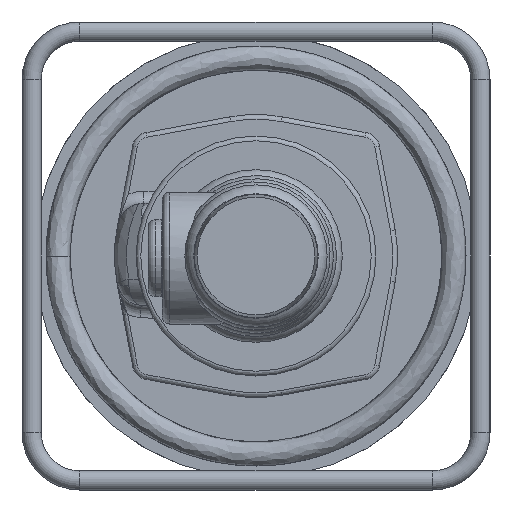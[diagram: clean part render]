
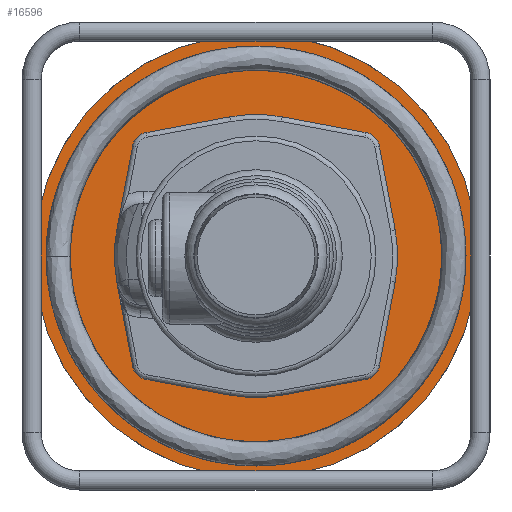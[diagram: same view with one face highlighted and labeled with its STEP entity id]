
A CAD part, left-side view. The second image highlights one B-rep face of the part: STEP entity #16596.
In plain terms, the highlighted planar face has unit normal (-1, 0, 0).
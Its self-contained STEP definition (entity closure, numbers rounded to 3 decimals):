
#117=FACE_BOUND('',#5367,.T.);
#1531=PLANE('',#17544);
#2523=LINE('',#37416,#3498);
#2524=LINE('',#37420,#3499);
#2525=LINE('',#37424,#3500);
#2526=LINE('',#37428,#3501);
#2527=LINE('',#37432,#3502);
#2528=LINE('',#37436,#3503);
#2529=LINE('',#37440,#3504);
#2530=LINE('',#37444,#3505);
#3498=VECTOR('',#20340,10.);
#3499=VECTOR('',#20343,10.);
#3500=VECTOR('',#20346,10.);
#3501=VECTOR('',#20349,10.);
#3502=VECTOR('',#20352,10.);
#3503=VECTOR('',#20355,10.);
#3504=VECTOR('',#20358,10.);
#3505=VECTOR('',#20361,10.);
#4392=FACE_OUTER_BOUND('',#5366,.T.);
#5366=EDGE_LOOP('',(#13907));
#5367=EDGE_LOOP('',(#13908,#13909,#13910,#13911,#13912,#13913,#13914,#13915,
#13916,#13917,#13918,#13919,#13920,#13921,#13922,#13923));
#5856=CIRCLE('',#17522,92.5);
#5858=CIRCLE('',#17545,7.);
#5859=CIRCLE('',#17546,59.);
#5860=CIRCLE('',#17547,7.);
#5861=CIRCLE('',#17548,59.);
#5862=CIRCLE('',#17549,7.);
#5863=CIRCLE('',#17550,59.);
#5864=CIRCLE('',#17551,7.);
#5865=CIRCLE('',#17552,59.);
#7430=VERTEX_POINT('',#37389);
#7431=VERTEX_POINT('',#37414);
#7432=VERTEX_POINT('',#37415);
#7433=VERTEX_POINT('',#37417);
#7434=VERTEX_POINT('',#37419);
#7435=VERTEX_POINT('',#37421);
#7436=VERTEX_POINT('',#37423);
#7437=VERTEX_POINT('',#37425);
#7438=VERTEX_POINT('',#37427);
#7439=VERTEX_POINT('',#37429);
#7440=VERTEX_POINT('',#37431);
#7441=VERTEX_POINT('',#37433);
#7442=VERTEX_POINT('',#37435);
#7443=VERTEX_POINT('',#37437);
#7444=VERTEX_POINT('',#37439);
#7445=VERTEX_POINT('',#37441);
#7446=VERTEX_POINT('',#37443);
#9617=EDGE_CURVE('',#7430,#7430,#5856,.T.);
#9619=EDGE_CURVE('',#7431,#7432,#2523,.T.);
#9620=EDGE_CURVE('',#7431,#7433,#5858,.T.);
#9621=EDGE_CURVE('',#7433,#7434,#2524,.T.);
#9622=EDGE_CURVE('',#7434,#7435,#5859,.T.);
#9623=EDGE_CURVE('',#7436,#7435,#2525,.T.);
#9624=EDGE_CURVE('',#7436,#7437,#5860,.T.);
#9625=EDGE_CURVE('',#7437,#7438,#2526,.T.);
#9626=EDGE_CURVE('',#7438,#7439,#5861,.T.);
#9627=EDGE_CURVE('',#7440,#7439,#2527,.T.);
#9628=EDGE_CURVE('',#7440,#7441,#5862,.T.);
#9629=EDGE_CURVE('',#7441,#7442,#2528,.T.);
#9630=EDGE_CURVE('',#7442,#7443,#5863,.T.);
#9631=EDGE_CURVE('',#7444,#7443,#2529,.T.);
#9632=EDGE_CURVE('',#7444,#7445,#5864,.T.);
#9633=EDGE_CURVE('',#7445,#7446,#2530,.T.);
#9634=EDGE_CURVE('',#7446,#7432,#5865,.T.);
#13907=ORIENTED_EDGE('',*,*,#9617,.F.);
#13908=ORIENTED_EDGE('',*,*,#9619,.F.);
#13909=ORIENTED_EDGE('',*,*,#9620,.T.);
#13910=ORIENTED_EDGE('',*,*,#9621,.T.);
#13911=ORIENTED_EDGE('',*,*,#9622,.T.);
#13912=ORIENTED_EDGE('',*,*,#9623,.F.);
#13913=ORIENTED_EDGE('',*,*,#9624,.T.);
#13914=ORIENTED_EDGE('',*,*,#9625,.T.);
#13915=ORIENTED_EDGE('',*,*,#9626,.T.);
#13916=ORIENTED_EDGE('',*,*,#9627,.F.);
#13917=ORIENTED_EDGE('',*,*,#9628,.T.);
#13918=ORIENTED_EDGE('',*,*,#9629,.T.);
#13919=ORIENTED_EDGE('',*,*,#9630,.T.);
#13920=ORIENTED_EDGE('',*,*,#9631,.F.);
#13921=ORIENTED_EDGE('',*,*,#9632,.T.);
#13922=ORIENTED_EDGE('',*,*,#9633,.T.);
#13923=ORIENTED_EDGE('',*,*,#9634,.T.);
#16596=ADVANCED_FACE('',(#4392,#117),#1531,.T.);
#17522=AXIS2_PLACEMENT_3D('',#37391,#20294,#20295);
#17544=AXIS2_PLACEMENT_3D('',#37413,#20338,#20339);
#17545=AXIS2_PLACEMENT_3D('',#37418,#20341,#20342);
#17546=AXIS2_PLACEMENT_3D('',#37422,#20344,#20345);
#17547=AXIS2_PLACEMENT_3D('',#37426,#20347,#20348);
#17548=AXIS2_PLACEMENT_3D('',#37430,#20350,#20351);
#17549=AXIS2_PLACEMENT_3D('',#37434,#20353,#20354);
#17550=AXIS2_PLACEMENT_3D('',#37438,#20356,#20357);
#17551=AXIS2_PLACEMENT_3D('',#37442,#20359,#20360);
#17552=AXIS2_PLACEMENT_3D('',#37445,#20362,#20363);
#20294=DIRECTION('center_axis',(1.,0.,0.));
#20295=DIRECTION('ref_axis',(0.,0.644,0.765));
#20338=DIRECTION('center_axis',(-1.,0.,0.));
#20339=DIRECTION('ref_axis',(0.,0.644,0.765));
#20340=DIRECTION('',(0.,0.184,-0.983));
#20341=DIRECTION('center_axis',(1.,0.,0.));
#20342=DIRECTION('ref_axis',(0.,0.809,-0.588));
#20343=DIRECTION('',(0.,-0.983,0.184));
#20344=DIRECTION('center_axis',(1.,0.,0.));
#20345=DIRECTION('ref_axis',(0.,0.,
1.));
#20346=DIRECTION('',(0.,0.983,0.184));
#20347=DIRECTION('center_axis',(1.,0.,0.));
#20348=DIRECTION('ref_axis',(0.,0.588,0.809));
#20349=DIRECTION('',(0.,-0.184,-0.983));
#20350=DIRECTION('center_axis',(1.,0.,0.));
#20351=DIRECTION('ref_axis',(0.,0.,
1.));
#20352=DIRECTION('',(0.,-0.184,0.983));
#20353=DIRECTION('center_axis',(1.,0.,0.));
#20354=DIRECTION('ref_axis',(0.,-0.809,0.588));
#20355=DIRECTION('',(0.,0.983,-0.184));
#20356=DIRECTION('center_axis',(1.,0.,0.));
#20357=DIRECTION('ref_axis',(0.,0.,
1.));
#20358=DIRECTION('',(0.,-0.983,-0.184));
#20359=DIRECTION('center_axis',(1.,0.,0.));
#20360=DIRECTION('ref_axis',(0.,-0.588,-0.809));
#20361=DIRECTION('',(0.,0.184,0.983));
#20362=DIRECTION('center_axis',(1.,0.,0.));
#20363=DIRECTION('ref_axis',(0.,0.,
1.));
#37389=CARTESIAN_POINT('',(0.,-70.782,59.55));
#37391=CARTESIAN_POINT('Origin',(0.,0.,0.));
#37413=CARTESIAN_POINT('Origin',(0.,70.782,
-59.55));
#37414=CARTESIAN_POINT('',(0.,51.428,45.839));
#37415=CARTESIAN_POINT('',(0.,57.988,10.882));
#37416=CARTESIAN_POINT('',(0.,51.428,45.839));
#37417=CARTESIAN_POINT('',(0.,45.839,51.428));
#37418=CARTESIAN_POINT('Origin',(0.,44.548,
44.548));
#37419=CARTESIAN_POINT('',(0.,10.882,57.988));
#37420=CARTESIAN_POINT('',(0.,45.839,51.428));
#37421=CARTESIAN_POINT('',(0.,-10.882,57.988));
#37422=CARTESIAN_POINT('Origin',(0.,0.,
0.));
#37423=CARTESIAN_POINT('',(0.,-45.839,51.428));
#37424=CARTESIAN_POINT('',(0.,-45.839,51.428));
#37425=CARTESIAN_POINT('',(0.,-51.428,45.839));
#37426=CARTESIAN_POINT('Origin',(0.,-44.548,
44.548));
#37427=CARTESIAN_POINT('',(0.,-57.988,10.882));
#37428=CARTESIAN_POINT('',(0.,-51.428,45.839));
#37429=CARTESIAN_POINT('',(0.,-57.988,-10.882));
#37430=CARTESIAN_POINT('Origin',(0.,0.,
0.));
#37431=CARTESIAN_POINT('',(0.,-51.428,-45.839));
#37432=CARTESIAN_POINT('',(0.,-51.428,-45.839));
#37433=CARTESIAN_POINT('',(0.,-45.839,-51.428));
#37434=CARTESIAN_POINT('Origin',(0.,-44.548,
-44.548));
#37435=CARTESIAN_POINT('',(0.,-10.882,-57.988));
#37436=CARTESIAN_POINT('',(0.,-45.839,-51.428));
#37437=CARTESIAN_POINT('',(0.,10.882,-57.988));
#37438=CARTESIAN_POINT('Origin',(0.,0.,
0.));
#37439=CARTESIAN_POINT('',(0.,45.839,-51.428));
#37440=CARTESIAN_POINT('',(0.,45.839,-51.428));
#37441=CARTESIAN_POINT('',(0.,51.428,-45.839));
#37442=CARTESIAN_POINT('Origin',(0.,44.548,
-44.548));
#37443=CARTESIAN_POINT('',(0.,57.988,-10.882));
#37444=CARTESIAN_POINT('',(0.,51.428,-45.839));
#37445=CARTESIAN_POINT('Origin',(0.,0.,
0.));
